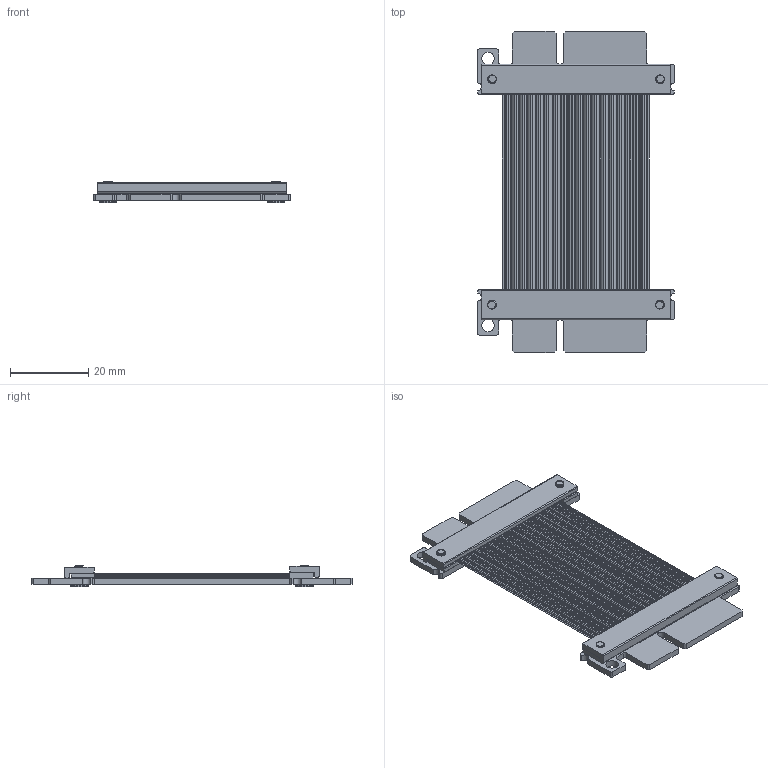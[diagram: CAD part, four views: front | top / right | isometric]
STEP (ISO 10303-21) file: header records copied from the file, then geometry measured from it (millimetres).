
FILE_DESCRIPTION(('Open CASCADE Model'),'2;1');
FILE_NAME('Open CASCADE Shape Model','2024-10-21T09:20:47',('Author'),( 'Open CASCADE'),'Open CASCADE STEP processor 7.5','Open CASCADE 7.5' ,'Unknown');
FILE_SCHEMA(('AUTOMOTIVE_DESIGN { 1 0 10303 214 1 1 1 1 }'));
Length unit declared in the file: millimetre
Products named in the file (9): PCB; Board; Open CASCADE STEP translator 7.5 1.1.1; Free-Models; M2 H=5mm 20220810_RGB1315860; R3H ºۉ«½񋴵熬 ·½ю 1.5mm 20220704_RGB1315860; K2S 20221109; 5.0 SI 20221123; ·½юµ爦 H=1MM 20221126_RGB1315860
Assembly tree (16 placements, depth 3):
  PCB
    Board
      Open CASCADE STEP translator 7.5 1.1.1
    Free-Models
      M2 H=5mm 20220810_RGB1315860  x4
      R3H ºۉ«½񋴵熬 ·½ю 1.5mm 20220704_RGB1315860  x2
      K2S 20221109  x2
      5.0 SI 20221123  x3
      ·½юµ爦 H=1MM 20221126_RGB1315860  x2
Bounding box: 50.3 x 82 x 5.6 mm (x, y, z)
Volume: 4997.8 mm3; surface area: 38625.2 mm2
Topology: 272 solids, 272 shells, 3876 faces, 8866 edges, 5506 vertices
Faces by surface type: cylinder 2082, plane 1190, torus 592, bspline 12
Full cylindrical faces by diameter (mm): 2.2 x8, 2.8 x2, 3.2 x2
Entity records: 41617 total; most frequent: CARTESIAN_POINT 8024, DIRECTION 7292, ORIENTED_EDGE 6132, EDGE_CURVE 3066, AXIS2_PLACEMENT_3D 2934, VERTEX_POINT 1910, CIRCLE 1590, FACE_BOUND 1472
